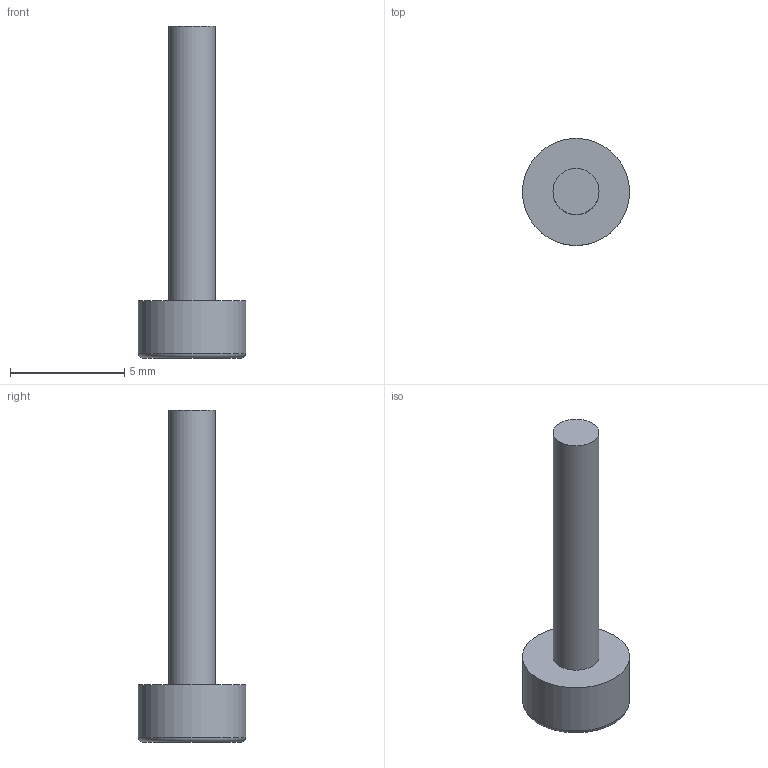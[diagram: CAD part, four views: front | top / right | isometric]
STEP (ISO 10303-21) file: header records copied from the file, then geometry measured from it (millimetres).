
FILE_DESCRIPTION(('Open CASCADE Model'),'2;1');
FILE_NAME('C27_UC1_HW_Closure_-33.4_56','2026-09-09T20:28:19',('Author') ,('Open CASCADE'),'Open CASCADE STEP processor 7.9','build123d', 'Unknown');
FILE_SCHEMA(('AUTOMOTIVE_DESIGN { 1 0 10303 214 1 1 1 1 }'));
Length unit declared in the file: millimetre
Products named in the file (2): C27_UC1_HW_Closure_-33.4_56; C27_UC1_HW_Closure_-33.4_56_1
Assembly tree (1 placements, depth 2):
  C27_UC1_HW_Closure_-33.4_56
    C27_UC1_HW_Closure_-33.4_56_1
Bounding box: 4.68 x 4.68 x 14.5 mm (x, y, z)
Volume: 77.3 mm3; surface area: 153.5 mm2
Topology: 1 solids, 1 shells, 13 faces, 26 edges, 17 vertices
Faces by surface type: plane 10, cylinder 2, torus 1
Full cylindrical faces by diameter (mm): 2.013 x1, 4.68 x1
Entity records: 686 total; most frequent: CARTESIAN_POINT 128, DIRECTION 96, ORIENTED_EDGE 52, PCURVE 52, DEFINITIONAL_REPRESENTATION 52, LINE 50, VECTOR 50, EDGE_CURVE 26
